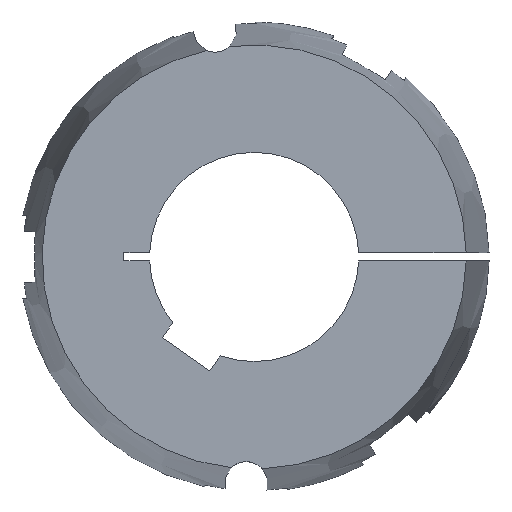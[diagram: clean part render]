
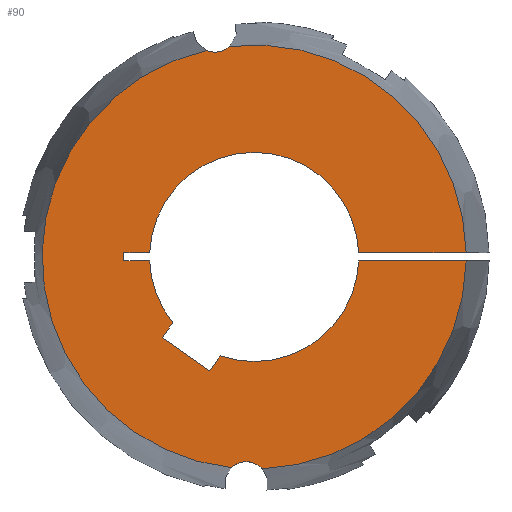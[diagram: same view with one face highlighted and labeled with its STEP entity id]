
A CAD part, left-side view. The second image highlights one B-rep face of the part: STEP entity #90.
In plain terms, the highlighted planar face has unit normal (-1, 0, 0).
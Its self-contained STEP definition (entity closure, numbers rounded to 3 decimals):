
#90 = ADVANCED_FACE( '', ( #140 ), #141, .F. );
#140 = FACE_OUTER_BOUND( '', #208, .T. );
#141 = PLANE( '', #209 );
#208 = EDGE_LOOP( '', ( #369, #370, #371, #372, #373, #374, #375, #376, #377, #378, #379, #380, #381, #382, #383, #384 ) );
#209 = AXIS2_PLACEMENT_3D( '', #385, #386, #387 );
#369 = ORIENTED_EDGE( '', *, *, #548, .F. );
#370 = ORIENTED_EDGE( '', *, *, #601, .F. );
#371 = ORIENTED_EDGE( '', *, *, #570, .T. );
#372 = ORIENTED_EDGE( '', *, *, #583, .T. );
#373 = ORIENTED_EDGE( '', *, *, #581, .T. );
#374 = ORIENTED_EDGE( '', *, *, #578, .T. );
#375 = ORIENTED_EDGE( '', *, *, #587, .T. );
#376 = ORIENTED_EDGE( '', *, *, #602, .T. );
#377 = ORIENTED_EDGE( '', *, *, #603, .T. );
#378 = ORIENTED_EDGE( '', *, *, #604, .T. );
#379 = ORIENTED_EDGE( '', *, *, #605, .T. );
#380 = ORIENTED_EDGE( '', *, *, #606, .T. );
#381 = ORIENTED_EDGE( '', *, *, #572, .T. );
#382 = ORIENTED_EDGE( '', *, *, #607, .F. );
#383 = ORIENTED_EDGE( '', *, *, #551, .F. );
#384 = ORIENTED_EDGE( '', *, *, #608, .F. );
#385 = CARTESIAN_POINT( '', ( -102., 0., 0. ) );
#386 = DIRECTION( '', ( 1., 0., 0. ) );
#387 = DIRECTION( '', ( 0., 1., 0. ) );
#548 = EDGE_CURVE( '', #649, #651, #652, .F. );
#551 = EDGE_CURVE( '', #655, #657, #658, .F. );
#570 = EDGE_CURVE( '', #693, #691, #694, .T. );
#572 = EDGE_CURVE( '', #696, #697, #698, .T. );
#578 = EDGE_CURVE( '', #709, #707, #710, .T. );
#581 = EDGE_CURVE( '', #714, #709, #715, .T. );
#583 = EDGE_CURVE( '', #691, #714, #717, .T. );
#587 = EDGE_CURVE( '', #707, #721, #723, .T. );
#601 = EDGE_CURVE( '', #693, #649, #745, .T. );
#602 = EDGE_CURVE( '', #721, #746, #747, .T. );
#603 = EDGE_CURVE( '', #746, #748, #749, .T. );
#604 = EDGE_CURVE( '', #748, #750, #751, .T. );
#605 = EDGE_CURVE( '', #750, #752, #753, .T. );
#606 = EDGE_CURVE( '', #752, #696, #754, .T. );
#607 = EDGE_CURVE( '', #657, #697, #755, .T. );
#608 = EDGE_CURVE( '', #651, #655, #756, .T. );
#649 = VERTEX_POINT( '', #815 );
#651 = VERTEX_POINT( '', #828 );
#652 = CIRCLE( '', #829, 6.75 );
#655 = VERTEX_POINT( '', #843 );
#657 = VERTEX_POINT( '', #856 );
#658 = CIRCLE( '', #857, 6.75 );
#691 = VERTEX_POINT( '', #924 );
#693 = VERTEX_POINT( '', #927 );
#694 = LINE( '', #928, #929 );
#696 = VERTEX_POINT( '', #937 );
#697 = VERTEX_POINT( '', #938 );
#698 = LINE( '', #939, #940 );
#707 = VERTEX_POINT( '', #958 );
#709 = VERTEX_POINT( '', #961 );
#710 = LINE( '', #962, #963 );
#714 = VERTEX_POINT( '', #969 );
#715 = LINE( '', #970, #971 );
#717 = CIRCLE( '', #974, 32.5 );
#721 = VERTEX_POINT( '', #979 );
#723 = LINE( '', #982, #983 );
#745 = CIRCLE( '', #1008, 65.867 );
#746 = VERTEX_POINT( '', #1009 );
#747 = CIRCLE( '', #1010, 32.5 );
#748 = VERTEX_POINT( '', #1011 );
#749 = LINE( '', #1012, #1013 );
#750 = VERTEX_POINT( '', #1014 );
#751 = LINE( '', #1015, #1016 );
#752 = VERTEX_POINT( '', #1017 );
#753 = LINE( '', #1018, #1019 );
#754 = CIRCLE( '', #1020, 32.5 );
#755 = CIRCLE( '', #1021, 65.867 );
#756 = CIRCLE( '', #1022, 65.867 );
#815 = CARTESIAN_POINT( '', ( -102., -2.538, -65.819 ) );
#828 = CARTESIAN_POINT( '', ( -102., 7.121, -65.481 ) );
#829 = AXIS2_PLACEMENT_3D( '', #1188, #1189, #1190 );
#843 = CARTESIAN_POINT( '', ( -102., 14.891, 64.162 ) );
#856 = CARTESIAN_POINT( '', ( -102., 7.611, 65.426 ) );
#857 = AXIS2_PLACEMENT_3D( '', #1191, #1192, #1193 );
#924 = CARTESIAN_POINT( '', ( -102., -32.476, -1.25 ) );
#927 = CARTESIAN_POINT( '', ( -102., -65.856, -1.25 ) );
#928 = CARTESIAN_POINT( '', ( -102., -73., -1.25 ) );
#929 = VECTOR( '', #1223, 1000. );
#937 = CARTESIAN_POINT( '', ( -102., -32.476, 1.25 ) );
#938 = CARTESIAN_POINT( '', ( -102., -65.856, 1.25 ) );
#939 = CARTESIAN_POINT( '', ( -102., 0., 1.25 ) );
#940 = VECTOR( '', #1224, 1000. );
#958 = CARTESIAN_POINT( '', ( -102., 28.537, -25.065 ) );
#961 = CARTESIAN_POINT( '', ( -102., 13.793, -35.389 ) );
#962 = CARTESIAN_POINT( '', ( -102., 13.793, -35.389 ) );
#963 = VECTOR( '', #1229, 1000. );
#969 = CARTESIAN_POINT( '', ( -102., 10.54, -30.743 ) );
#970 = CARTESIAN_POINT( '', ( -102., 10.54, -30.743 ) );
#971 = VECTOR( '', #1232, 1000. );
#974 = AXIS2_PLACEMENT_3D( '', #1234, #1235, #1236 );
#979 = CARTESIAN_POINT( '', ( -102., 25.285, -20.419 ) );
#982 = CARTESIAN_POINT( '', ( -102., 28.537, -25.065 ) );
#983 = VECTOR( '', #1242, 1000. );
#1008 = AXIS2_PLACEMENT_3D( '', #1276, #1277, #1278 );
#1009 = CARTESIAN_POINT( '', ( -102., 32.476, -1.25 ) );
#1010 = AXIS2_PLACEMENT_3D( '', #1279, #1280, #1281 );
#1011 = CARTESIAN_POINT( '', ( -102., 40.5, -1.25 ) );
#1012 = CARTESIAN_POINT( '', ( -102., 0., -1.25 ) );
#1013 = VECTOR( '', #1282, 1000. );
#1014 = CARTESIAN_POINT( '', ( -102., 40.5, 1.25 ) );
#1015 = CARTESIAN_POINT( '', ( -102., 40.5, -1.25 ) );
#1016 = VECTOR( '', #1283, 1000. );
#1017 = CARTESIAN_POINT( '', ( -102., 32.476, 1.25 ) );
#1018 = CARTESIAN_POINT( '', ( -102., 40.5, 1.25 ) );
#1019 = VECTOR( '', #1284, 1000. );
#1020 = AXIS2_PLACEMENT_3D( '', #1285, #1286, #1287 );
#1021 = AXIS2_PLACEMENT_3D( '', #1288, #1289, #1290 );
#1022 = AXIS2_PLACEMENT_3D( '', #1291, #1292, #1293 );
#1188 = CARTESIAN_POINT( '', ( -102., 2.456, -70.36 ) );
#1189 = DIRECTION( '', ( 1., 0., 0. ) );
#1190 = DIRECTION( '', ( 0., 1., 0. ) );
#1191 = CARTESIAN_POINT( '', ( -102., 12.218, 70.36 ) );
#1192 = DIRECTION( '', ( 1., 0., 0. ) );
#1193 = DIRECTION( '', ( 0., 1., 0. ) );
#1223 = DIRECTION( '', ( 0., 1., 0. ) );
#1224 = DIRECTION( '', ( 0., -1., 0. ) );
#1229 = DIRECTION( '', ( 0., 0.819, 0.574 ) );
#1232 = DIRECTION( '', ( 0., 0.574, -0.819 ) );
#1234 = CARTESIAN_POINT( '', ( -102., 0., 0. ) );
#1235 = DIRECTION( '', ( 1., 0., 0. ) );
#1236 = DIRECTION( '', ( 0., 0., -1. ) );
#1242 = DIRECTION( '', ( 0., -0.574, 0.819 ) );
#1276 = CARTESIAN_POINT( '', ( -102., 0., 0. ) );
#1277 = DIRECTION( '', ( 1., 0., 0. ) );
#1278 = DIRECTION( '', ( 0., 1., 0. ) );
#1279 = CARTESIAN_POINT( '', ( -102., 0., 0. ) );
#1280 = DIRECTION( '', ( 1., 0., 0. ) );
#1281 = DIRECTION( '', ( 0., 0., -1. ) );
#1282 = DIRECTION( '', ( 0., 1., 0. ) );
#1283 = DIRECTION( '', ( 0., 0., 1. ) );
#1284 = DIRECTION( '', ( 0., -1., 0. ) );
#1285 = CARTESIAN_POINT( '', ( -102., 0., 0. ) );
#1286 = DIRECTION( '', ( 1., 0., 0. ) );
#1287 = DIRECTION( '', ( 0., 0., -1. ) );
#1288 = CARTESIAN_POINT( '', ( -102., 0., 0. ) );
#1289 = DIRECTION( '', ( 1., 0., 0. ) );
#1290 = DIRECTION( '', ( 0., 1., 0. ) );
#1291 = CARTESIAN_POINT( '', ( -102., 0., 0. ) );
#1292 = DIRECTION( '', ( 1., 0., 0. ) );
#1293 = DIRECTION( '', ( 0., 1., 0. ) );
